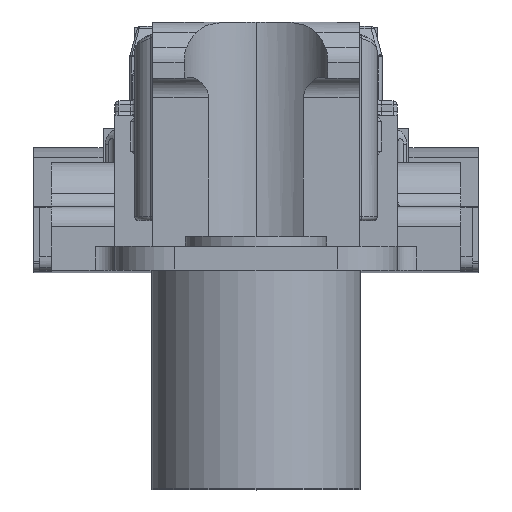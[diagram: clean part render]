
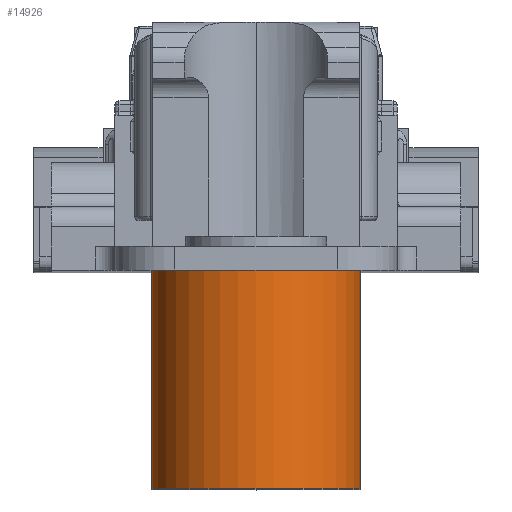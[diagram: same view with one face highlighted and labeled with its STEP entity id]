
A CAD part, top view. The second image highlights one B-rep face of the part: STEP entity #14926.
In plain terms, the highlighted cylindrical face has radius 5.25 mm (diameter 10.5 mm), a partial arc.
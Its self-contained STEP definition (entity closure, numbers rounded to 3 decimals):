
#36 = VERTEX_POINT ( 'NONE', #5267 ) ;
#87 = AXIS2_PLACEMENT_3D ( 'NONE', #13063, #3187, #10365 ) ;
#407 = ORIENTED_EDGE ( 'NONE', *, *, #3836, .T. ) ;
#1083 = ORIENTED_EDGE ( 'NONE', *, *, #3509, .F. ) ;
#1560 = EDGE_LOOP ( 'NONE', ( #1083, #12017, #407, #4739 ) ) ;
#1800 = DIRECTION ( 'NONE',  ( 1., 0., 0. ) ) ;
#1923 = EDGE_CURVE ( 'NONE', #36, #13097, #10332, .T. ) ;
#2553 = DIRECTION ( 'NONE',  ( 0., -1., 0. ) ) ;
#3187 = DIRECTION ( 'NONE',  ( 0., 1., 0. ) ) ;
#3462 = FACE_OUTER_BOUND ( 'NONE', #1560, .T. ) ;
#3509 = EDGE_CURVE ( 'NONE', #16894, #36, #13672, .T. ) ;
#3511 = DIRECTION ( 'NONE',  ( 0., 1., 0. ) ) ;
#3836 = EDGE_CURVE ( 'NONE', #4665, #13097, #16560, .T. ) ;
#4298 = LINE ( 'NONE', #15512, #15008 ) ;
#4665 = VERTEX_POINT ( 'NONE', #11901 ) ;
#4684 = DIRECTION ( 'NONE',  ( 0., -1., 0. ) ) ;
#4739 = ORIENTED_EDGE ( 'NONE', *, *, #1923, .F. ) ;
#4888 = CYLINDRICAL_SURFACE ( 'NONE', #87, 5.25 ) ;
#5267 = CARTESIAN_POINT ( 'NONE',  ( -5.25, -11., 45.994 ) ) ;
#5960 = CARTESIAN_POINT ( 'NONE',  ( 0., 0., 45.994 ) ) ;
#7087 = AXIS2_PLACEMENT_3D ( 'NONE', #5960, #4684, #1800 ) ;
#10332 = LINE ( 'NONE', #12933, #13127 ) ;
#10365 = DIRECTION ( 'NONE',  ( -1., 0., 0. ) ) ;
#11901 = CARTESIAN_POINT ( 'NONE',  ( 5.25, 0., 45.994 ) ) ;
#12017 = ORIENTED_EDGE ( 'NONE', *, *, #14352, .T. ) ;
#12071 = DIRECTION ( 'NONE',  ( 1., 0., 0. ) ) ;
#12496 = CARTESIAN_POINT ( 'NONE',  ( 5.25, -11., 45.994 ) ) ;
#12525 = AXIS2_PLACEMENT_3D ( 'NONE', #17281, #2553, #12071 ) ;
#12933 = CARTESIAN_POINT ( 'NONE',  ( -5.25, -11., 45.994 ) ) ;
#13063 = CARTESIAN_POINT ( 'NONE',  ( 0., -11., 45.994 ) ) ;
#13097 = VERTEX_POINT ( 'NONE', #17688 ) ;
#13127 = VECTOR ( 'NONE', #3511, 1000. ) ;
#13672 = CIRCLE ( 'NONE', #12525, 5.25 ) ;
#14352 = EDGE_CURVE ( 'NONE', #16894, #4665, #4298, .T. ) ;
#14926 = ADVANCED_FACE ( 'NONE', ( #3462 ), #4888, .T. ) ;
#15008 = VECTOR ( 'NONE', #16602, 1000. ) ;
#15512 = CARTESIAN_POINT ( 'NONE',  ( 5.25, -11., 45.994 ) ) ;
#16560 = CIRCLE ( 'NONE', #7087, 5.25 ) ;
#16602 = DIRECTION ( 'NONE',  ( 0., 1., 0. ) ) ;
#16894 = VERTEX_POINT ( 'NONE', #12496 ) ;
#17281 = CARTESIAN_POINT ( 'NONE',  ( 0., -11., 45.994 ) ) ;
#17688 = CARTESIAN_POINT ( 'NONE',  ( -5.25, 0., 45.994 ) ) ;
